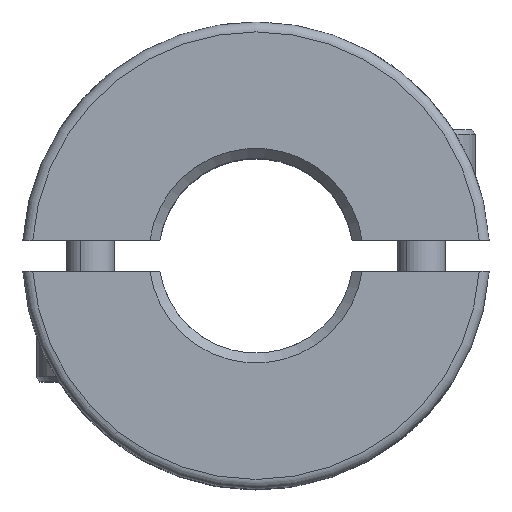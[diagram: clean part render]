
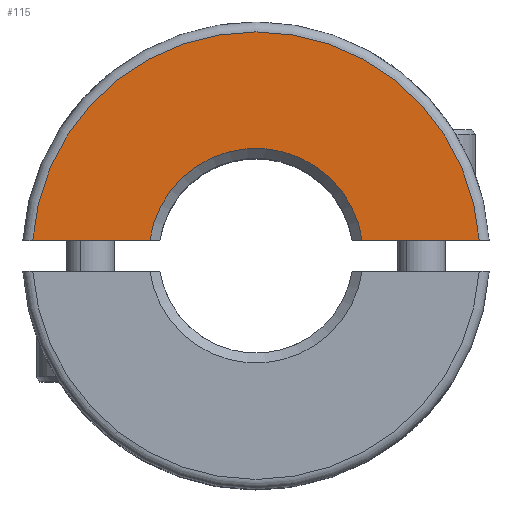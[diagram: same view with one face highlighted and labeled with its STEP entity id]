
A CAD part, top view. The second image highlights one B-rep face of the part: STEP entity #115.
In plain terms, the highlighted planar face has unit normal (0, 0, 1).
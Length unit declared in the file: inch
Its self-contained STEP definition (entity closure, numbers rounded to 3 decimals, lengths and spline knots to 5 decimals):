
#35 = VERTEX_POINT ( 'NONE', #1266 ) ;
#78 = DIRECTION ( 'NONE',  ( 0., 0., 1. ) ) ;
#115 = ADVANCED_FACE ( 'NONE', ( #194 ), #1882, .T. ) ;
#118 = CARTESIAN_POINT ( 'NONE',  ( -0.21466, 0.0313, 0.38553 ) ) ;
#190 = CIRCLE ( 'NONE', #622, 0.21693 ) ;
#194 = FACE_OUTER_BOUND ( 'NONE', #481, .T. ) ;
#346 = EDGE_CURVE ( 'NONE', #35, #1122, #1610, .T. ) ;
#357 = VERTEX_POINT ( 'NONE', #118 ) ;
#437 = CARTESIAN_POINT ( 'NONE',  ( 0., 0., 0.38553 ) ) ;
#451 = DIRECTION ( 'NONE',  ( 0., 0., -1. ) ) ;
#481 = EDGE_LOOP ( 'NONE', ( #1637, #1301, #1081, #1866 ) ) ;
#492 = EDGE_CURVE ( 'NONE', #357, #1122, #190, .T. ) ;
#622 = AXIS2_PLACEMENT_3D ( 'NONE', #437, #451, #1177 ) ;
#667 = CIRCLE ( 'NONE', #1825, 0.45236 ) ;
#756 = EDGE_CURVE ( 'NONE', #357, #908, #866, .T. ) ;
#812 = CARTESIAN_POINT ( 'NONE',  ( 0.21466, 0.0313, 0.38553 ) ) ;
#866 = LINE ( 'NONE', #1452, #1374 ) ;
#908 = VERTEX_POINT ( 'NONE', #1460 ) ;
#986 = CARTESIAN_POINT ( 'NONE',  ( 0., 0., 0.38553 ) ) ;
#989 = CARTESIAN_POINT ( 'NONE',  ( 0., 0., 0.38553 ) ) ;
#994 = CARTESIAN_POINT ( 'NONE',  ( 0.47244, 0.0313, 0.38553 ) ) ;
#1017 = DIRECTION ( 'NONE',  ( -1., 0., 0. ) ) ;
#1081 = ORIENTED_EDGE ( 'NONE', *, *, #492, .T. ) ;
#1098 = EDGE_CURVE ( 'NONE', #35, #908, #667, .T. ) ;
#1122 = VERTEX_POINT ( 'NONE', #812 ) ;
#1144 = DIRECTION ( 'NONE',  ( 0., 0., 1. ) ) ;
#1159 = DIRECTION ( 'NONE',  ( -1., 0., 0. ) ) ;
#1177 = DIRECTION ( 'NONE',  ( 1., 0., 0. ) ) ;
#1266 = CARTESIAN_POINT ( 'NONE',  ( 0.45128, 0.0313, 0.38553 ) ) ;
#1291 = DIRECTION ( 'NONE',  ( 1., 0., 0. ) ) ;
#1301 = ORIENTED_EDGE ( 'NONE', *, *, #756, .F. ) ;
#1374 = VECTOR ( 'NONE', #1159, 39.37008 ) ;
#1452 = CARTESIAN_POINT ( 'NONE',  ( 0.47244, 0.0313, 0.38553 ) ) ;
#1460 = CARTESIAN_POINT ( 'NONE',  ( -0.45128, 0.0313, 0.38553 ) ) ;
#1569 = VECTOR ( 'NONE', #1017, 39.37008 ) ;
#1610 = LINE ( 'NONE', #994, #1569 ) ;
#1637 = ORIENTED_EDGE ( 'NONE', *, *, #1098, .T. ) ;
#1714 = DIRECTION ( 'NONE',  ( 1., 0., 0. ) ) ;
#1776 = AXIS2_PLACEMENT_3D ( 'NONE', #989, #1144, #1291 ) ;
#1825 = AXIS2_PLACEMENT_3D ( 'NONE', #986, #78, #1714 ) ;
#1866 = ORIENTED_EDGE ( 'NONE', *, *, #346, .F. ) ;
#1882 = PLANE ( 'NONE',  #1776 ) ;
